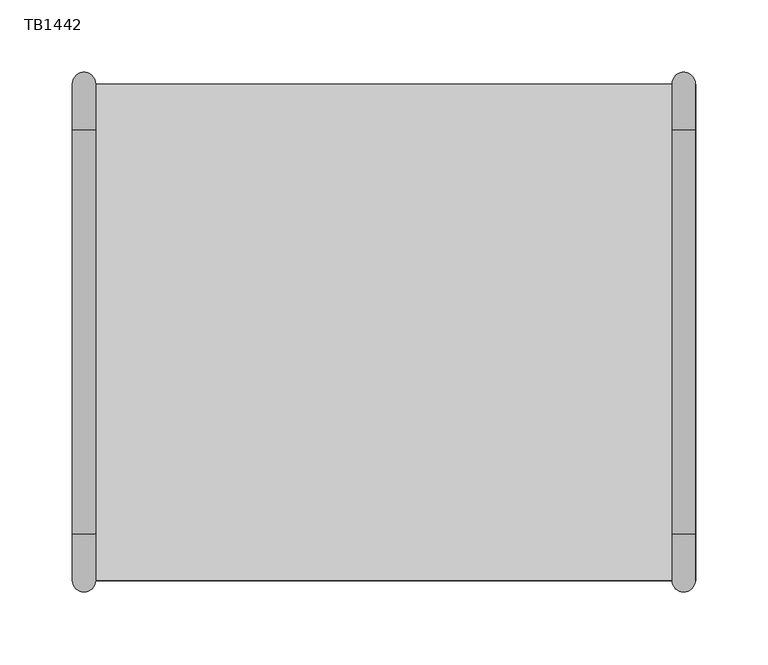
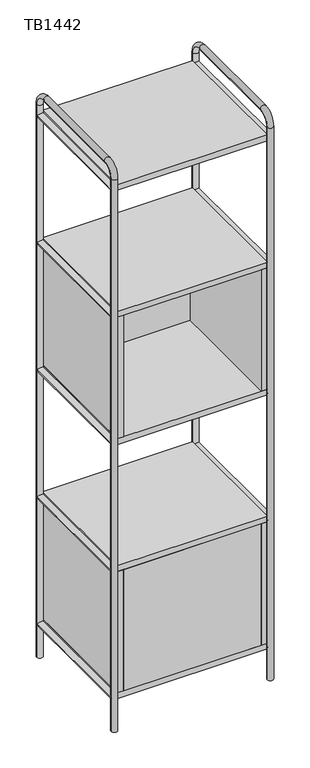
"""IFC4 building model written with IfcOpenShell, lengths in millimetres: furniture geometry, Tubbe Bookcase_4x1 : TB1442."""

from ifc_helpers import new_model, si_unit, point, frame, frame_2d, origin, place, context, project, spatial, polyline, circle_curve, ellipse_curve, trimmed, segment, composite_curve, outline, extrude, source, transform, mapped, element, save
from ifc_brep_helpers import plane_surface, cylinder_surface, revolved_surface, advanced_brep


def tb1442_28bb5b23(model_context):
    return source(origin(), model_context, "Body", "SolidModel", [
        extrude(outline(polyline([(183.0, 155.5), (-183.0, 155.5), (-183.0, 171.5), (183.0, 171.5), (183.0, 155.5)])), frame((0.0, 0.0, 814.0), z_axis=(0.0, 0.0, 1.0), x_axis=(1.0, 0.0, 0.0)), (0.0, 0.0, 1.0), 340.0),
        extrude(outline(polyline([(199.0, 171.5), (199.0, -171.5), (183.0, -171.5), (183.0, 171.5), (199.0, 171.5)])), frame((0.0, 0.0, 814.0), z_axis=(0.0, 0.0, 1.0), x_axis=(1.0, 0.0, 0.0)), (0.0, 0.0, 1.0), 340.0),
        extrude(outline(polyline([(-183.0, 171.5), (-183.0, -171.5), (-199.0, -171.5), (-199.0, 171.5), (-183.0, 171.5)])), frame((0.0, 0.0, 814.0), z_axis=(0.0, 0.0, 1.0), x_axis=(1.0, 0.0, 0.0)), (0.0, 0.0, 1.0), 340.0),
        advanced_brep(
        [(-215.2205547, 171.5, 0.0), (-199.2205547, 171.5, 0.0), (-215.2205547, 171.5, 1548.0), (-199.2205547, 171.5, 1548.0), (-199.2205547, 139.5, 1580.0), (-215.2205547, 139.5, 1580.0), (-215.2205547, -139.5, 1580.0), (-199.2205547, -139.5, 1580.0), (-199.2205547, -171.5, 1548.0), (-215.2205547, -171.5, 1548.0), (-215.2205547, -171.5, 0.0), (-199.2205547, -171.5, 0.0)],
        [
            (0, 1, circle_curve(frame((-207.2205547, 171.5, 0.0), z_axis=(0.0, 0.0, -1.0), x_axis=(1.0, 0.0, 0.0)), 8.0)),
            (1, 0, circle_curve(frame((-207.2205547, 171.5, 0.0), z_axis=(0.0, 0.0, -1.0), x_axis=(1.0, 0.0, 0.0)), 8.0)),
            (0, 2),
            (2, 3, circle_curve(frame((-207.2205547, 171.5, 1548.0), z_axis=(0.0, 0.0, -1.0), x_axis=(1.0, 0.0, 0.0)), 8.0)),
            (3, 1),
            (3, 2, circle_curve(frame((-207.2205547, 171.5, 1548.0), z_axis=(0.0, 0.0, -1.0), x_axis=(1.0, 0.0, 0.0)), 8.0)),
            (4, 5, circle_curve(frame((-207.2205547, 139.5, 1580.0), z_axis=(0.0, -1.0, 0.0), x_axis=(1.0, 0.0, 0.0)), 8.0)),
            (5, 6),
            (6, 7, circle_curve(frame((-207.2205547, -139.5, 1580.0), z_axis=(0.0, 1.0, 0.0), x_axis=(1.0, 0.0, 0.0)), 8.0)),
            (7, 4),
            (5, 4, circle_curve(frame((-207.2205547, 139.5, 1580.0), z_axis=(0.0, -1.0, 0.0), x_axis=(1.0, 0.0, 0.0)), 8.0)),
            (7, 6, circle_curve(frame((-207.2205547, -139.5, 1580.0), z_axis=(0.0, 1.0, 0.0), x_axis=(1.0, 0.0, 0.0)), 8.0)),
            (8, 7, circle_curve(frame((-199.2205547, -139.5, 1548.0), z_axis=(-1.0, 0.0, 0.0), x_axis=(0.0, 0.0, 1.0)), 32.0)),
            (6, 9, circle_curve(frame((-215.2205547, -139.5, 1548.0), z_axis=(1.0, 0.0, 0.0), x_axis=(0.0, 0.0, 1.0)), 32.0)),
            (9, 8, circle_curve(frame((-207.2205547, -171.5, 1548.0), z_axis=(0.0, 0.0, 1.0), x_axis=(1.0, 0.0, 0.0)), 8.0)),
            (8, 9, circle_curve(frame((-207.2205547, -171.5, 1548.0), z_axis=(0.0, 0.0, 1.0), x_axis=(1.0, 0.0, 0.0)), 8.0)),
            (10, 11, circle_curve(frame((-207.2205547, -171.5, 0.0), z_axis=(0.0, 0.0, -1.0), x_axis=(1.0, 0.0, 0.0)), 8.0)),
            (11, 10, circle_curve(frame((-207.2205547, -171.5, 0.0), z_axis=(0.0, 0.0, -1.0), x_axis=(1.0, 0.0, 0.0)), 8.0)),
            (9, 10),
            (11, 8),
            (4, 3, circle_curve(frame((-199.2205547, 139.5, 1548.0), z_axis=(-1.0, 0.0, 0.0), x_axis=(0.0, 1.0, 0.0)), 32.0)),
            (2, 5, circle_curve(frame((-215.2205547, 139.5, 1548.0), z_axis=(1.0, 0.0, 0.0), x_axis=(0.0, 1.0, 0.0)), 32.0)),
        ],
        [
            plane_surface(frame((-207.0, 171.5, 0.0), z_axis=(0.0, 0.0, -1.0), x_axis=(1.0, 0.0, 0.0))),
            cylinder_surface(frame((-207.2205547, 171.5, 0.0), z_axis=(0.0, 0.0, -1.0), x_axis=(1.0, 0.0, 0.0)), 8.0),
            cylinder_surface(frame((-207.2205547, 139.5, 1580.0), z_axis=(0.0, 1.0, 0.0), x_axis=(1.0, 0.0, 0.0)), 8.0),
            revolved_surface(trimmed(ellipse_curve(frame((-207.2205547, -139.5, 1580.0), z_axis=(0.0, 1.0, 0.0), x_axis=(1.0, 0.0, 0.0)), 8.0, 8.0), [point((-215.2205547, -139.5, 1580.0))], [point((-199.2205547, -139.5, 1580.0))], True, "CARTESIAN"), (-207.0, -139.5, 1548.0), (1.0, 0.0, 0.0)),
            revolved_surface(trimmed(ellipse_curve(frame((-207.2205547, -139.5, 1580.0), z_axis=(0.0, 1.0, 0.0), x_axis=(1.0, 0.0, 0.0)), 8.0, 8.0), [point((-199.2205547, -139.5, 1580.0))], [point((-215.2205547, -139.5, 1580.0))], True, "CARTESIAN"), (-207.0, -139.5, 1548.0), (1.0, 0.0, 0.0)),
            plane_surface(frame((-207.0, -171.5, 0.0), z_axis=(0.0, 0.0, -1.0), x_axis=(1.0, 0.0, 0.0))),
            cylinder_surface(frame((-207.2205547, -171.5, 1548.0), z_axis=(0.0, 0.0, 1.0), x_axis=(1.0, 0.0, 0.0)), 8.0),
            revolved_surface(trimmed(ellipse_curve(frame((-207.2205547, 171.5, 1548.0), z_axis=(0.0, 0.0, -1.0), x_axis=(1.0, 0.0, 0.0)), 8.0, 8.0), [point((-215.2205547, 171.5, 1548.0))], [point((-199.2205547, 171.5, 1548.0))], True, "CARTESIAN"), (-207.0, 139.5, 1548.0), (1.0, 0.0, 0.0)),
            revolved_surface(trimmed(ellipse_curve(frame((-207.2205547, 171.5, 1548.0), z_axis=(0.0, 0.0, -1.0), x_axis=(1.0, 0.0, 0.0)), 8.0, 8.0), [point((-199.2205547, 171.5, 1548.0))], [point((-215.2205547, 171.5, 1548.0))], True, "CARTESIAN"), (-207.0, 139.5, 1548.0), (1.0, 0.0, 0.0)),
        ],
        [
            (0, [[1, 2]]),
            (1, [[-1, 3, 4, 5]]),
            (1, [[-2, -5, 6, -3]]),
            (2, [[7, 8, 9, 10]]),
            (2, [[11, -10, 12, -8]]),
            (3, [[13, -9, 14, 15]]),
            (4, [[-14, -12, -13, 16]]),
            (5, [[17, 18]]),
            (6, [[-15, 19, -18, 20]]),
            (6, [[-16, -20, -17, -19]]),
            (7, [[21, -4, 22, -7]]),
            (8, [[-22, -6, -21, -11]]),
        ],
    ),
        extrude(outline(composite_curve([segment(trimmed(circle_curve(frame_2d((806.0, -207.0)), 8.0), [point((806.0, -215.0))], [point((806.0, -199.0))], False, "CARTESIAN"), True, "CONTINUOUS"), segment(trimmed(circle_curve(frame_2d((806.0, -207.0)), 8.0), [point((806.0, -199.0))], [point((806.0, -215.0))], False, "CARTESIAN"), True, "CONTINUOUS")], self_intersect=False)), frame((0.0, -171.5, 0.0), z_axis=(0.0, 1.0, 0.0), x_axis=(0.0, 0.0, 1.0)), (0.0, 0.0, 1.0), 343.0),
        extrude(outline(composite_curve([segment(trimmed(circle_curve(frame_2d((450.0, -207.0)), 8.0), [point((450.0, -215.0))], [point((450.0, -199.0))], False, "CARTESIAN"), True, "CONTINUOUS"), segment(trimmed(circle_curve(frame_2d((450.0, -207.0)), 8.0), [point((450.0, -199.0))], [point((450.0, -215.0))], False, "CARTESIAN"), True, "CONTINUOUS")], self_intersect=False)), frame((0.0, -171.5, 0.0), z_axis=(0.0, 1.0, 0.0), x_axis=(0.0, 0.0, 1.0)), (0.0, 0.0, 1.0), 343.0),
        extrude(outline(composite_curve([segment(trimmed(circle_curve(frame_2d((94.0, -207.0)), 8.0), [point((94.0, -215.0))], [point((94.0, -199.0))], False, "CARTESIAN"), True, "CONTINUOUS"), segment(trimmed(circle_curve(frame_2d((94.0, -207.0)), 8.0), [point((94.0, -199.0))], [point((94.0, -215.0))], False, "CARTESIAN"), True, "CONTINUOUS")], self_intersect=False)), frame((0.0, -171.5, 0.0), z_axis=(0.0, 1.0, 0.0), x_axis=(0.0, 0.0, 1.0)), (0.0, 0.0, 1.0), 343.0),
        extrude(outline(composite_curve([segment(trimmed(circle_curve(frame_2d((1518.0, -207.0)), 8.0), [point((1518.0, -215.0))], [point((1518.0, -199.0))], False, "CARTESIAN"), True, "CONTINUOUS"), segment(trimmed(circle_curve(frame_2d((1518.0, -207.0)), 8.0), [point((1518.0, -199.0))], [point((1518.0, -215.0))], False, "CARTESIAN"), True, "CONTINUOUS")], self_intersect=False)), frame((0.0, -171.5, 0.0), z_axis=(0.0, 1.0, 0.0), x_axis=(0.0, 0.0, 1.0)), (0.0, 0.0, 1.0), 343.0),
        extrude(outline(composite_curve([segment(trimmed(circle_curve(frame_2d((1162.0, -207.0)), 8.0), [point((1162.0, -215.0))], [point((1162.0, -199.0))], False, "CARTESIAN"), True, "CONTINUOUS"), segment(trimmed(circle_curve(frame_2d((1162.0, -207.0)), 8.0), [point((1162.0, -199.0))], [point((1162.0, -215.0))], False, "CARTESIAN"), True, "CONTINUOUS")], self_intersect=False)), frame((0.0, -171.5, 0.0), z_axis=(0.0, 1.0, 0.0), x_axis=(0.0, 0.0, 1.0)), (0.0, 0.0, 1.0), 343.0),
        extrude(outline(polyline([(183.0, -171.5), (-183.0, -171.5), (-183.0, -155.5), (183.0, -155.5), (183.0, -171.5)])), frame((0.0, 0.0, 102.0), z_axis=(0.0, 0.0, 1.0), x_axis=(1.0, 0.0, 0.0)), (0.0, 0.0, 1.0), 340.0),
        extrude(outline(polyline([(183.0, 155.5), (-183.0, 155.5), (-183.0, 171.5), (183.0, 171.5), (183.0, 155.5)])), frame((0.0, 0.0, 102.0), z_axis=(0.0, 0.0, 1.0), x_axis=(1.0, 0.0, 0.0)), (0.0, 0.0, 1.0), 340.0),
        extrude(outline(polyline([(199.0, 171.5), (199.0, -171.5), (183.0, -171.5), (183.0, 171.5), (199.0, 171.5)])), frame((0.0, 0.0, 102.0), z_axis=(0.0, 0.0, 1.0), x_axis=(1.0, 0.0, 0.0)), (0.0, 0.0, 1.0), 340.0),
        extrude(outline(polyline([(-183.0, 171.5), (-183.0, -171.5), (-199.0, -171.5), (-199.0, 171.5), (-183.0, 171.5)])), frame((0.0, 0.0, 102.0), z_axis=(0.0, 0.0, 1.0), x_axis=(1.0, 0.0, 0.0)), (0.0, 0.0, 1.0), 340.0),
        extrude(outline(polyline([(199.0, 171.5), (199.0, -171.5), (-199.0, -171.5), (-199.0, 171.5), (199.0, 171.5)])), frame((0.0, 0.0, 1510.0), z_axis=(0.0, 0.0, 1.0), x_axis=(1.0, 0.0, 0.0)), (0.0, 0.0, 1.0), 16.0),
        extrude(outline(polyline([(199.0, 171.5), (199.0, -171.5), (-199.0, -171.5), (-199.0, 171.5), (199.0, 171.5)])), frame((0.0, 0.0, 1154.0), z_axis=(0.0, 0.0, 1.0), x_axis=(1.0, 0.0, 0.0)), (0.0, 0.0, 1.0), 16.0),
        extrude(outline(polyline([(199.0, 171.5), (199.0, -171.5), (-199.0, -171.5), (-199.0, 171.5), (199.0, 171.5)])), frame((0.0, 0.0, 798.0), z_axis=(0.0, 0.0, 1.0), x_axis=(1.0, 0.0, 0.0)), (0.0, 0.0, 1.0), 16.0),
        extrude(outline(polyline([(199.0, 171.5), (199.0, -171.5), (-199.0, -171.5), (-199.0, 171.5), (199.0, 171.5)])), frame((0.0, 0.0, 442.0), z_axis=(0.0, 0.0, 1.0), x_axis=(1.0, 0.0, 0.0)), (0.0, 0.0, 1.0), 16.0),
        extrude(outline(polyline([(199.0, 171.5), (199.0, -171.5), (-199.0, -171.5), (-199.0, 171.5), (199.0, 171.5)])), frame((0.0, 0.0, 86.0), z_axis=(0.0, 0.0, 1.0), x_axis=(1.0, 0.0, 0.0)), (0.0, 0.0, 1.0), 16.0),
        advanced_brep(
        [(198.7794453, 171.5, 0.0), (214.7794453, 171.5, 0.0), (198.7794453, 171.5, 1548.0), (214.7794453, 171.5, 1548.0), (214.7794453, 139.5, 1580.0), (198.7794453, 139.5, 1580.0), (198.7794453, -139.5, 1580.0), (214.7794453, -139.5, 1580.0), (214.7794453, -171.5, 1548.0), (198.7794453, -171.5, 1548.0), (198.7794453, -171.5, 0.0), (214.7794453, -171.5, 0.0)],
        [
            (0, 1, circle_curve(frame((206.7794453, 171.5, 0.0), z_axis=(0.0, 0.0, -1.0), x_axis=(1.0, 0.0, 0.0)), 8.0)),
            (1, 0, circle_curve(frame((206.7794453, 171.5, 0.0), z_axis=(0.0, 0.0, -1.0), x_axis=(1.0, 0.0, 0.0)), 8.0)),
            (0, 2),
            (2, 3, circle_curve(frame((206.7794453, 171.5, 1548.0), z_axis=(0.0, 0.0, -1.0), x_axis=(1.0, 0.0, 0.0)), 8.0)),
            (3, 1),
            (3, 2, circle_curve(frame((206.7794453, 171.5, 1548.0), z_axis=(0.0, 0.0, -1.0), x_axis=(1.0, 0.0, 0.0)), 8.0)),
            (4, 5, circle_curve(frame((206.7794453, 139.5, 1580.0), z_axis=(0.0, -1.0, 0.0), x_axis=(1.0, 0.0, 0.0)), 8.0)),
            (5, 6),
            (6, 7, circle_curve(frame((206.7794453, -139.5, 1580.0), z_axis=(0.0, 1.0, 0.0), x_axis=(1.0, 0.0, 0.0)), 8.0)),
            (7, 4),
            (5, 4, circle_curve(frame((206.7794453, 139.5, 1580.0), z_axis=(0.0, -1.0, 0.0), x_axis=(1.0, 0.0, 0.0)), 8.0)),
            (7, 6, circle_curve(frame((206.7794453, -139.5, 1580.0), z_axis=(0.0, 1.0, 0.0), x_axis=(1.0, 0.0, 0.0)), 8.0)),
            (8, 7, circle_curve(frame((214.7794453, -139.5, 1548.0), z_axis=(-1.0, 0.0, 0.0), x_axis=(0.0, 0.0, 1.0)), 32.0)),
            (6, 9, circle_curve(frame((198.7794453, -139.5, 1548.0), z_axis=(1.0, 0.0, 0.0), x_axis=(0.0, 0.0, 1.0)), 32.0)),
            (9, 8, circle_curve(frame((206.7794453, -171.5, 1548.0), z_axis=(0.0, 0.0, 1.0), x_axis=(1.0, 0.0, 0.0)), 8.0)),
            (8, 9, circle_curve(frame((206.7794453, -171.5, 1548.0), z_axis=(0.0, 0.0, 1.0), x_axis=(1.0, 0.0, 0.0)), 8.0)),
            (10, 11, circle_curve(frame((206.7794453, -171.5, 0.0), z_axis=(0.0, 0.0, -1.0), x_axis=(1.0, 0.0, 0.0)), 8.0)),
            (11, 10, circle_curve(frame((206.7794453, -171.5, 0.0), z_axis=(0.0, 0.0, -1.0), x_axis=(1.0, 0.0, 0.0)), 8.0)),
            (9, 10),
            (11, 8),
            (4, 3, circle_curve(frame((214.7794453, 139.5, 1548.0), z_axis=(-1.0, 0.0, 0.0), x_axis=(0.0, 1.0, 0.0)), 32.0)),
            (2, 5, circle_curve(frame((198.7794453, 139.5, 1548.0), z_axis=(1.0, 0.0, 0.0), x_axis=(0.0, 1.0, 0.0)), 32.0)),
        ],
        [
            plane_surface(frame((207.0, 171.5, 0.0), z_axis=(0.0, 0.0, -1.0), x_axis=(1.0, 0.0, 0.0))),
            cylinder_surface(frame((206.7794453, 171.5, 0.0), z_axis=(0.0, 0.0, -1.0), x_axis=(1.0, 0.0, 0.0)), 8.0),
            cylinder_surface(frame((206.7794453, 139.5, 1580.0), z_axis=(0.0, 1.0, 0.0), x_axis=(1.0, 0.0, 0.0)), 8.0),
            revolved_surface(trimmed(ellipse_curve(frame((206.7794453, -139.5, 1580.0), z_axis=(0.0, 1.0, 0.0), x_axis=(1.0, 0.0, 0.0)), 8.0, 8.0), [point((198.7794453, -139.5, 1580.0))], [point((214.7794453, -139.5, 1580.0))], True, "CARTESIAN"), (207.0, -139.5, 1548.0), (1.0, 0.0, 0.0)),
            revolved_surface(trimmed(ellipse_curve(frame((206.7794453, -139.5, 1580.0), z_axis=(0.0, 1.0, 0.0), x_axis=(1.0, 0.0, 0.0)), 8.0, 8.0), [point((214.7794453, -139.5, 1580.0))], [point((198.7794453, -139.5, 1580.0))], True, "CARTESIAN"), (207.0, -139.5, 1548.0), (1.0, 0.0, 0.0)),
            plane_surface(frame((207.0, -171.5, 0.0), z_axis=(0.0, 0.0, -1.0), x_axis=(1.0, 0.0, 0.0))),
            cylinder_surface(frame((206.7794453, -171.5, 1548.0), z_axis=(0.0, 0.0, 1.0), x_axis=(1.0, 0.0, 0.0)), 8.0),
            revolved_surface(trimmed(ellipse_curve(frame((206.7794453, 171.5, 1548.0), z_axis=(0.0, 0.0, -1.0), x_axis=(1.0, 0.0, 0.0)), 8.0, 8.0), [point((198.7794453, 171.5, 1548.0))], [point((214.7794453, 171.5, 1548.0))], True, "CARTESIAN"), (207.0, 139.5, 1548.0), (1.0, 0.0, 0.0)),
            revolved_surface(trimmed(ellipse_curve(frame((206.7794453, 171.5, 1548.0), z_axis=(0.0, 0.0, -1.0), x_axis=(1.0, 0.0, 0.0)), 8.0, 8.0), [point((214.7794453, 171.5, 1548.0))], [point((198.7794453, 171.5, 1548.0))], True, "CARTESIAN"), (207.0, 139.5, 1548.0), (1.0, 0.0, 0.0)),
        ],
        [
            (0, [[1, 2]]),
            (1, [[-1, 3, 4, 5]]),
            (1, [[-2, -5, 6, -3]]),
            (2, [[7, 8, 9, 10]]),
            (2, [[11, -10, 12, -8]]),
            (3, [[13, -9, 14, 15]]),
            (4, [[-14, -12, -13, 16]]),
            (5, [[17, 18]]),
            (6, [[-15, 19, -18, 20]]),
            (6, [[-16, -20, -17, -19]]),
            (7, [[21, -4, 22, -7]]),
            (8, [[-22, -6, -21, -11]]),
        ],
    ),
        extrude(outline(composite_curve([segment(trimmed(circle_curve(frame_2d((806.0, 207.0)), 8.0), [point((806.0, 199.0))], [point((806.0, 215.0))], False, "CARTESIAN"), True, "CONTINUOUS"), segment(trimmed(circle_curve(frame_2d((806.0, 207.0)), 8.0), [point((806.0, 215.0))], [point((806.0, 199.0))], False, "CARTESIAN"), True, "CONTINUOUS")], self_intersect=False)), frame((0.0, -171.5, 0.0), z_axis=(0.0, 1.0, 0.0), x_axis=(0.0, 0.0, 1.0)), (0.0, 0.0, 1.0), 343.0),
        extrude(outline(composite_curve([segment(trimmed(circle_curve(frame_2d((450.0, 207.0)), 8.0), [point((450.0, 199.0))], [point((450.0, 215.0))], False, "CARTESIAN"), True, "CONTINUOUS"), segment(trimmed(circle_curve(frame_2d((450.0, 207.0)), 8.0), [point((450.0, 215.0))], [point((450.0, 199.0))], False, "CARTESIAN"), True, "CONTINUOUS")], self_intersect=False)), frame((0.0, -171.5, 0.0), z_axis=(0.0, 1.0, 0.0), x_axis=(0.0, 0.0, 1.0)), (0.0, 0.0, 1.0), 343.0),
        extrude(outline(composite_curve([segment(trimmed(circle_curve(frame_2d((94.0, 207.0)), 8.0), [point((94.0, 199.0))], [point((94.0, 215.0))], False, "CARTESIAN"), True, "CONTINUOUS"), segment(trimmed(circle_curve(frame_2d((94.0, 207.0)), 8.0), [point((94.0, 215.0))], [point((94.0, 199.0))], False, "CARTESIAN"), True, "CONTINUOUS")], self_intersect=False)), frame((0.0, -171.5, 0.0), z_axis=(0.0, 1.0, 0.0), x_axis=(0.0, 0.0, 1.0)), (0.0, 0.0, 1.0), 343.0),
        extrude(outline(composite_curve([segment(trimmed(circle_curve(frame_2d((1518.0, 207.0)), 8.0), [point((1518.0, 199.0))], [point((1518.0, 215.0))], False, "CARTESIAN"), True, "CONTINUOUS"), segment(trimmed(circle_curve(frame_2d((1518.0, 207.0)), 8.0), [point((1518.0, 215.0))], [point((1518.0, 199.0))], False, "CARTESIAN"), True, "CONTINUOUS")], self_intersect=False)), frame((0.0, -171.5, 0.0), z_axis=(0.0, 1.0, 0.0), x_axis=(0.0, 0.0, 1.0)), (0.0, 0.0, 1.0), 343.0),
        extrude(outline(composite_curve([segment(trimmed(circle_curve(frame_2d((1162.0, 207.0)), 8.0), [point((1162.0, 199.0))], [point((1162.0, 215.0))], False, "CARTESIAN"), True, "CONTINUOUS"), segment(trimmed(circle_curve(frame_2d((1162.0, 207.0)), 8.0), [point((1162.0, 215.0))], [point((1162.0, 199.0))], False, "CARTESIAN"), True, "CONTINUOUS")], self_intersect=False)), frame((0.0, -171.5, 0.0), z_axis=(0.0, 1.0, 0.0), x_axis=(0.0, 0.0, 1.0)), (0.0, 0.0, 1.0), 343.0),
    ])


if __name__ == "__main__":
    model = new_model("IFC4")
    model_context = context("Model", 3, world=origin())
    ifc_project = project(units=[si_unit("LENGTHUNIT", "METRE", prefix="MILLI")], contexts=[model_context])
    site = spatial("IfcSite", under=ifc_project)
    building = spatial("IfcBuilding", under=site)
    placement = place(None, origin())
    tb1442_shape = tb1442_28bb5b23(model_context)
    element("IfcFurniture", 1, ObjectType="Tubbe Bookcase_4x1 : TB1442", at=placement, inside=building, context=model_context, shape_type="MappedRepresentation", body=[
        mapped(tb1442_shape, transform((0.0, 0.0, 0.0), x_axis=(1.0, 0.0, 0.0), y_axis=(0.0, 1.0, 0.0), z_axis=(0.0, 0.0, 1.0))),
    ])
    save(model, "model.ifc")
